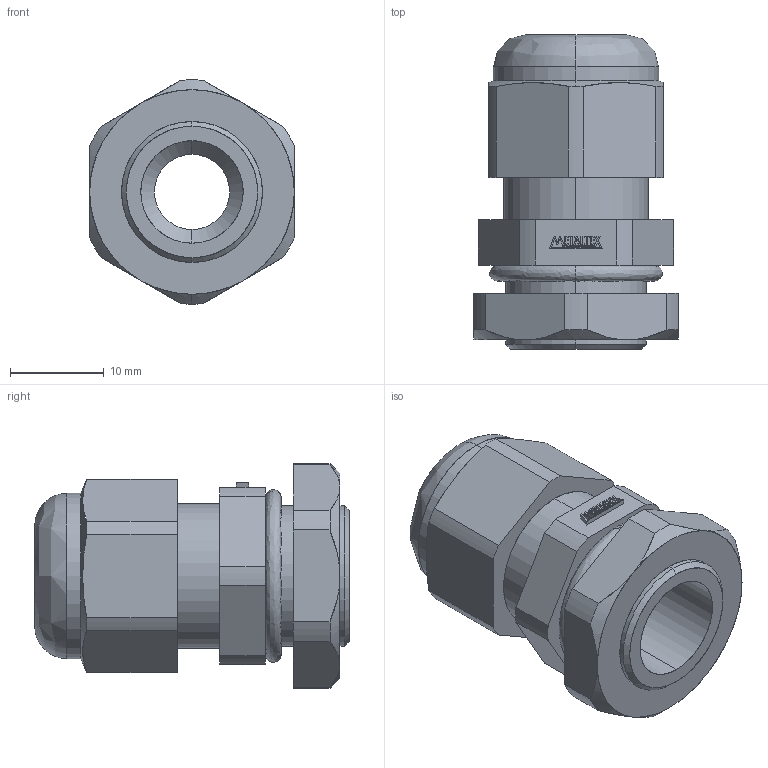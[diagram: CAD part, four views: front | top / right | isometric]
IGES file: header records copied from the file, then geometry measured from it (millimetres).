
Start section: SolidWorks IGES file using analytic representation for surfaces
Global section: file name: D:\X - Arquivos\PROEX\Empresas\P11 - METALTEX\01 - Produtos\IGES\Terceira remessa\Etapa 2\CH-PG9.IGS; native system: SolidWorks 2012; preprocessor: SolidWorks 2012; author: Usuario; date: 180207.124038; units: millimetre
Bounding box: 21.8 x 33.5 x 23.89 mm (x, y, z)
Surface area: 4204.4 mm2 (no closed solid volume)
Topology: 0 solids, 0 shells, 174 faces, 1301 edges, 1301 vertices
Faces by surface type: bspline 125, revolution 49
